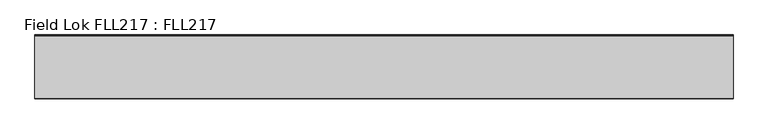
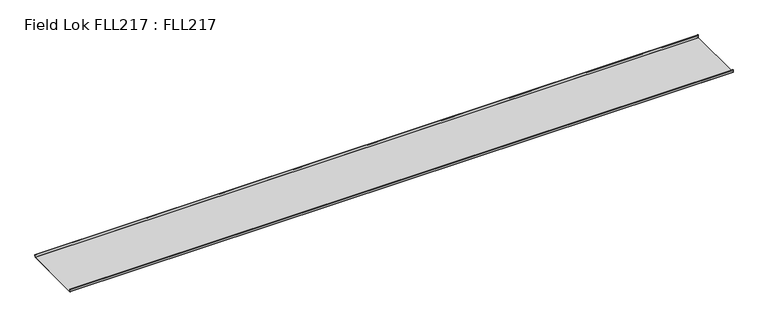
"""IFC4 building model written with IfcOpenShell, lengths in millimetres: proxy geometry, Field Lok FLL217 : FLL217."""

from ifc_helpers import new_model, si_unit, point, frame, frame_2d, origin, place, context, project, spatial, polyline, circle_curve, trimmed, segment, composite_curve, outline, extrude, source, transform, mapped, element, save


def field_lok_fll217_fll217_9bbd02b4(model_context):
    return source(origin(), model_context, "Body", "SweptSolid", [
        extrude(outline(composite_curve([segment(polyline([(1.2526869, 0.6263434), (551.4874659, 0.6263434)]), True, "CONTINUOUS"), segment(trimmed(circle_curve(frame_2d((551.4874659, 1.2526869)), 0.6263434), [point((551.4874659, 0.6263434))], [point((552.0151034, 1.5901848))], True, "CARTESIAN"), True, "CONTINUOUS"), segment(polyline([(552.0151034, 1.5901848), (552.7773577, 23.4182944)]), True, "CONTINUOUS"), segment(trimmed(circle_curve(frame_2d((554.0292815, 23.3745762)), 1.2526869), [point((552.7773577, 23.4182944))], [point((554.0292815, 24.6272631))], False, "CARTESIAN"), True, "CONTINUOUS"), segment(polyline([(554.0292815, 24.6272631), (557.0757953, 24.6272631)]), True, "CONTINUOUS"), segment(trimmed(circle_curve(frame_2d((557.0757953, 23.3745762)), 1.2526869), [point((557.0757953, 24.6272631))], [point((558.3284822, 23.3745762))], False, "CARTESIAN"), True, "CONTINUOUS"), segment(polyline([(558.3284822, 23.3745762), (558.3284822, 16.8762629)]), True, "CONTINUOUS"), segment(trimmed(circle_curve(frame_2d((556.8898496, 16.8762629)), 1.4386326), [point((558.3284822, 16.8762629))], [point((555.451217, 16.8762629))], False, "CARTESIAN"), True, "CONTINUOUS"), segment(polyline([(555.451217, 16.8762629), (555.451217, 20.3015787), (557.7021387, 20.3015787), (557.7021387, 23.3745762)]), True, "CONTINUOUS"), segment(trimmed(circle_curve(frame_2d((557.0757953, 23.3745762)), 0.6263434), [point((557.7021387, 23.3745762))], [point((557.0757953, 24.0009197))], True, "CARTESIAN"), True, "CONTINUOUS"), segment(polyline([(557.0757953, 24.0009197), (554.0292815, 24.0009197)]), True, "CONTINUOUS"), segment(trimmed(circle_curve(frame_2d((554.0292815, 23.3745762)), 0.6263434), [point((554.0292815, 24.0009197))], [point((553.4033196, 23.3964353))], True, "CARTESIAN"), True, "CONTINUOUS"), segment(polyline([(553.4033196, 23.3964353), (552.6466282, 1.7276262)]), True, "CONTINUOUS"), segment(trimmed(circle_curve(frame_2d((551.4874659, 1.2526869)), 1.2526869), [point((552.6466282, 1.7276262))], [point((551.4874659, 0.0))], False, "CARTESIAN"), True, "CONTINUOUS"), segment(polyline([(551.4874659, 0.0), (1.2526869, 0.0)]), True, "CONTINUOUS"), segment(trimmed(circle_curve(frame_2d((1.2526869, 1.2526869)), 1.2526869), [point((1.2526869, 0.0))], [point((0.0, 1.2526869))], False, "CARTESIAN"), True, "CONTINUOUS"), segment(polyline([(0.0, 1.2526869), (0.0, 22.1218893)]), True, "CONTINUOUS"), segment(trimmed(circle_curve(frame_2d((1.2526869, 22.1218893)), 1.2526869), [point((0.0, 22.1218893))], [point((2.5053738, 22.1218893))], False, "CARTESIAN"), True, "CONTINUOUS"), segment(polyline([(2.5053738, 22.1218893), (2.5053738, 16.7001038), (0.6263434, 16.7001038), (0.6263434, 1.2526869)]), True, "CONTINUOUS"), segment(trimmed(circle_curve(frame_2d((1.2526869, 1.2526869)), 0.6263434), [point((0.6263434, 1.2526869))], [point((1.2526869, 0.6263434))], True, "CARTESIAN"), True, "CONTINUOUS")], self_intersect=False)), frame((-3140.195459, 0.0, 0.0), z_axis=(1.0, 0.0, 0.0), x_axis=(0.0, 1.0, 0.0)), (0.0, 0.0, 1.0), 6096.0),
    ])


if __name__ == "__main__":
    model = new_model("IFC4")
    model_context = context("Model", 3, world=origin())
    ifc_project = project(units=[si_unit("LENGTHUNIT", "METRE", prefix="MILLI")], contexts=[model_context])
    site = spatial("IfcSite", under=ifc_project)
    building = spatial("IfcBuilding", under=site)
    placement = place(None, origin())
    field_lok_fll217_fll217_shape = field_lok_fll217_fll217_9bbd02b4(model_context)
    element("IfcBuildingElementProxy", 1, Name="Field Lok FLL217 : FLL217", ObjectType="Field Lok FLL217 : FLL217", at=placement, inside=building, context=model_context, shape_type="MappedRepresentation", body=[
        mapped(field_lok_fll217_fll217_shape, transform((0.0, 0.0, 0.0), x_axis=(1.0, 0.0, 0.0), y_axis=(0.0, 1.0, 0.0), z_axis=(0.0, 0.0, 1.0))),
    ])
    save(model, "model.ifc")
